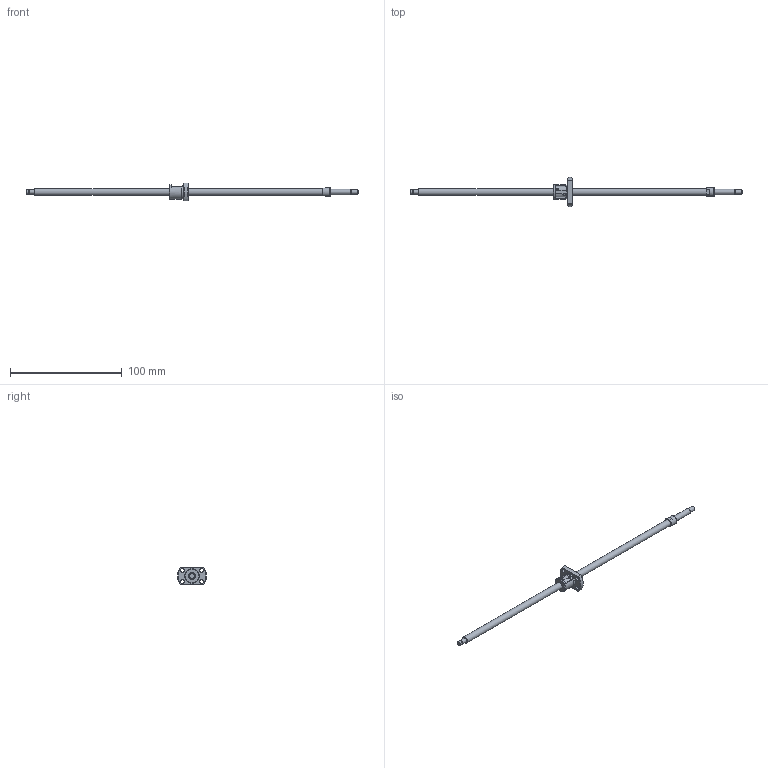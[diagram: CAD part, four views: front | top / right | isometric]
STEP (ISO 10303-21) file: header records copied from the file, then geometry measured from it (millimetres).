
FILE_DESCRIPTION(/* description */ ('STEP AP214'),/* implementation_level */ '2;1');
FILE_NAME(/* name */ 'SRT0601-253R297C7B0X(120Processing)',/* time_stamp */ '2026-08-04T17:53:55+02:00',/* author */ ('License CC BY-ND 4.0'),/* organization */ ('CADENAS'),/* preprocessor_version */ 'ST-DEVELOPER v20',/* originating_system */ 'PARTsolutions',/* authorisation */ ' ');
FILE_SCHEMA (('AUTOMOTIVE_DESIGN {1 0 10303 214 3 1 1}'));
Length unit declared in the file: millimetre
Products named in the file (3): SRT0601-253R297C7B0X(120Processing); SRT0601-253R335BCt7Processing14Shaft; SRT0601Nut
Assembly tree (2 placements, depth 2):
  SRT0601-253R297C7B0X(120Processing)
    SRT0601-253R335BCt7Processing14Shaft
    SRT0601Nut
Bounding box: 297 x 26 x 16 mm (x, y, z)
Volume: 10633.2 mm3; surface area: 7562.4 mm2
Topology: 2 solids, 2 shells, 66 faces, 162 edges, 107 vertices
Faces by surface type: plane 33, cylinder 20, cone 12, torus 1
Full cylindrical faces by diameter (mm): 1 x2, 3.4 x4, 3.7 x1, 4 x3, 5 x1, 6 x2, 8 x1, 12.5 x1, 13 x1
Entity records: 1847 total; most frequent: CARTESIAN_POINT 351, DIRECTION 308, ORIENTED_EDGE 248, AXIS2_PLACEMENT_3D 133, EDGE_CURVE 124, EDGE_LOOP 108, FACE_BOUND 108, VERTEX_POINT 94
